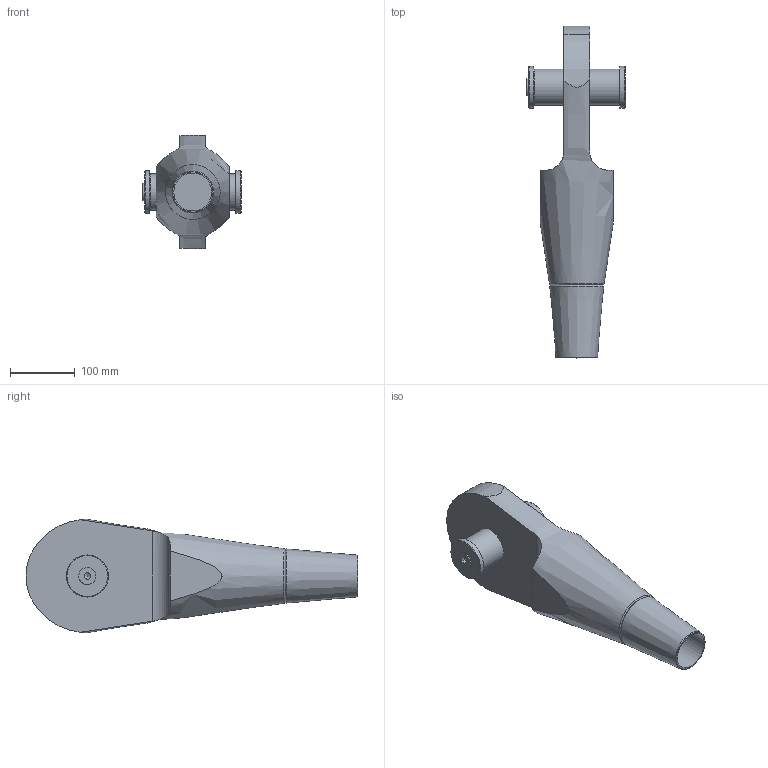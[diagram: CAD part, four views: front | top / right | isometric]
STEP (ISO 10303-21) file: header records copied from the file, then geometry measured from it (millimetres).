
FILE_DESCRIPTION(/* description */ (''),/* implementation_level */ '2;1');
FILE_NAME(/* name */ 'G:\Engineering\700 CAD\Internet-PX-1-step-igs-dxf\520-OES-Arbeitsdateien\520-056-OES.stp',/* time_stamp */ '2020-06-26T10:36:35+02:00',/* author */ ('schwarz'),/* organization */ (''),/* preprocessor_version */ 'ST-DEVELOPER v16.1',/* originating_system */ 'Autodesk Inventor 2016',/* authorisation */ '');
FILE_SCHEMA (('AUTOMOTIVE_DESIGN { 1 0 10303 214 3 1 1 }'));
Length unit declared in the file: centimetre
Products named in the file (1): 520-056-OES-KMU-Kunde
Bounding box: 151.4 x 512.72 x 175.17 mm (x, y, z)
Volume: 3573643.9 mm3; surface area: 237154.9 mm2
Topology: 2 solids, 3 shells, 44 faces, 97 edges, 63 vertices
Faces by surface type: plane 21, cylinder 12, cone 10, torus 1
Full cylindrical faces by diameter (mm): 10.106 x1, 26.52 x1, 56 x1, 58.5 x1, 59 x1, 65 x2
Entity records: 1277 total; most frequent: CARTESIAN_POINT 329, DIRECTION 178, ORIENTED_EDGE 148, AXIS2_PLACEMENT_3D 79, EDGE_CURVE 74, EDGE_LOOP 68, VERTEX_POINT 58, STYLED_ITEM 46
